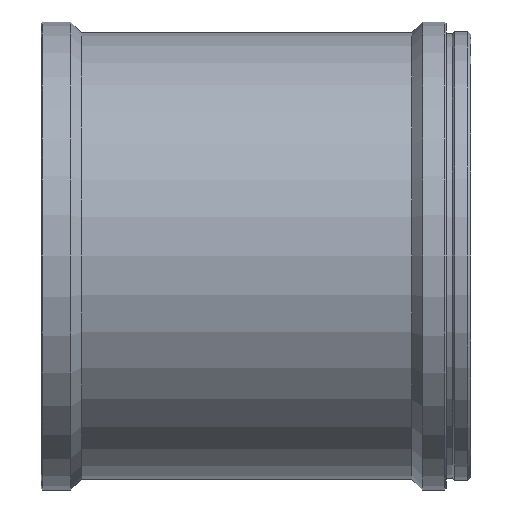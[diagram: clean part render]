
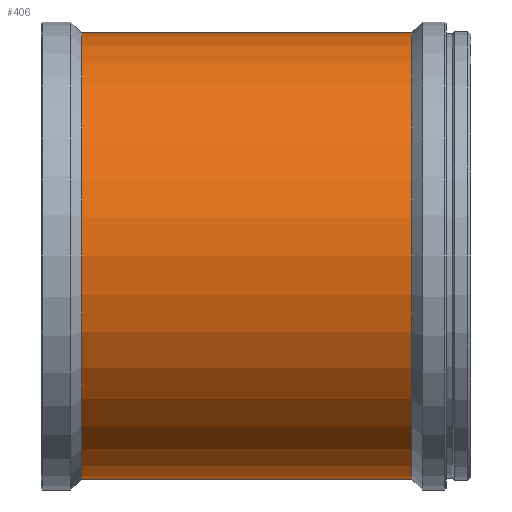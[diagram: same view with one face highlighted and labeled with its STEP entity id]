
A CAD part, front view. The second image highlights one B-rep face of the part: STEP entity #406.
In plain terms, the highlighted cylindrical face has radius 35.75 mm (diameter 71.5 mm), a partial arc.
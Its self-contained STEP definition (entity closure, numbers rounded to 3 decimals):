
#22 = DIRECTION ( 'NONE',  ( 0., 0., 1. ) ) ;
#45 = CIRCLE ( 'NONE', #804, 35.75 ) ;
#54 = VECTOR ( 'NONE', #1079, 1000. ) ;
#100 = CARTESIAN_POINT ( 'NONE',  ( -134.561, 50., 0. ) ) ;
#169 = AXIS2_PLACEMENT_3D ( 'NONE', #1055, #281, #1053 ) ;
#179 = EDGE_CURVE ( 'NONE', #544, #587, #45, .T. ) ;
#211 = EDGE_CURVE ( 'NONE', #831, #381, #539, .T. ) ;
#222 = CYLINDRICAL_SURFACE ( 'NONE', #723, 35.75 ) ;
#234 = CARTESIAN_POINT ( 'NONE',  ( -71.764, 50., -35.75 ) ) ;
#277 = CARTESIAN_POINT ( 'NONE',  ( -71.764, 50., 35.75 ) ) ;
#278 = DIRECTION ( 'NONE',  ( 0., 0., 1. ) ) ;
#281 = DIRECTION ( 'NONE',  ( -1., 0., 0. ) ) ;
#315 = ORIENTED_EDGE ( 'NONE', *, *, #1054, .F. ) ;
#332 = CARTESIAN_POINT ( 'NONE',  ( -124.664, 50., 35.75 ) ) ;
#381 = VERTEX_POINT ( 'NONE', #277 ) ;
#406 = ADVANCED_FACE ( 'NONE', ( #922 ), #222, .T. ) ;
#488 = CARTESIAN_POINT ( 'NONE',  ( -134.561, 50., -35.75 ) ) ;
#539 = CIRCLE ( 'NONE', #169, 35.75 ) ;
#544 = VERTEX_POINT ( 'NONE', #778 ) ;
#570 = ORIENTED_EDGE ( 'NONE', *, *, #179, .F. ) ;
#587 = VERTEX_POINT ( 'NONE', #332 ) ;
#635 = ORIENTED_EDGE ( 'NONE', *, *, #664, .T. ) ;
#664 = EDGE_CURVE ( 'NONE', #381, #587, #939, .T. ) ;
#684 = LINE ( 'NONE', #488, #54 ) ;
#719 = EDGE_LOOP ( 'NONE', ( #315, #1015, #635, #570 ) ) ;
#720 = VECTOR ( 'NONE', #733, 1000. ) ;
#723 = AXIS2_PLACEMENT_3D ( 'NONE', #100, #940, #22 ) ;
#733 = DIRECTION ( 'NONE',  ( -1., 0., 0. ) ) ;
#778 = CARTESIAN_POINT ( 'NONE',  ( -124.664, 50., -35.75 ) ) ;
#804 = AXIS2_PLACEMENT_3D ( 'NONE', #879, #1046, #278 ) ;
#831 = VERTEX_POINT ( 'NONE', #234 ) ;
#879 = CARTESIAN_POINT ( 'NONE',  ( -124.664, 50., 0. ) ) ;
#897 = CARTESIAN_POINT ( 'NONE',  ( -134.561, 50., 35.75 ) ) ;
#922 = FACE_OUTER_BOUND ( 'NONE', #719, .T. ) ;
#939 = LINE ( 'NONE', #897, #720 ) ;
#940 = DIRECTION ( 'NONE',  ( -1., 0., 0. ) ) ;
#1015 = ORIENTED_EDGE ( 'NONE', *, *, #211, .T. ) ;
#1046 = DIRECTION ( 'NONE',  ( -1., 0., 0. ) ) ;
#1053 = DIRECTION ( 'NONE',  ( 0., 0., 1. ) ) ;
#1054 = EDGE_CURVE ( 'NONE', #831, #544, #684, .T. ) ;
#1055 = CARTESIAN_POINT ( 'NONE',  ( -71.764, 50., 0. ) ) ;
#1079 = DIRECTION ( 'NONE',  ( -1., 0., 0. ) ) ;
